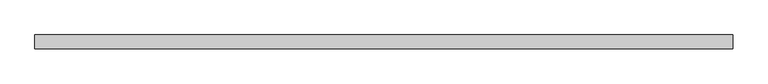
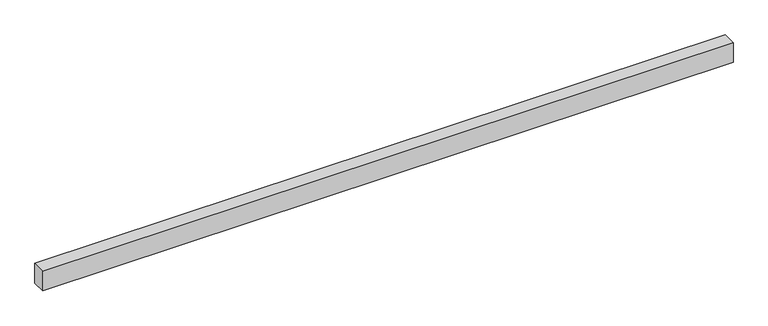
"""IFC4 building model written with IfcOpenShell, lengths in millimetres: proxy geometry, Кабель-каналы_магистральные_цвет-белый : Кабель-канал магистральный 60х40 белый."""

from ifc_helpers import new_model, si_unit, origin, origin_with_axes, place, context, project, spatial, polyline, outline, extrude, source, transform, mapped, element, save


def generic_models_2455add4(model_context):
    return source(origin(), model_context, "Body", "SweptSolid", [
        extrude(outline(polyline([(2000.0, -40.0), (0.0, -40.0), (0.0, 0.0), (2000.0, 0.0), (2000.0, -40.0)])), origin_with_axes(), (0.0, 0.0, 1.0), 60.0),
    ])


if __name__ == "__main__":
    model = new_model("IFC4")
    model_context = context("Model", 3, world=origin())
    ifc_project = project(units=[si_unit("LENGTHUNIT", "METRE", prefix="MILLI")], contexts=[model_context])
    site = spatial("IfcSite", under=ifc_project)
    building = spatial("IfcBuilding", under=site)
    placement = place(None, origin())
    generic_models_shape = generic_models_2455add4(model_context)
    element("IfcBuildingElementProxy", 1, Name="Кабель-каналы_магистральные_цвет-белый : Кабель-канал магистральный 60х40 белый", ObjectType="Кабель-каналы_магистральные_цвет-белый : Кабель-канал магистральный 60х40 белый", at=placement, inside=building, context=model_context, shape_type="MappedRepresentation", body=[
        mapped(generic_models_shape, transform((0.0, 0.0, 0.0), x_axis=(1.0, 0.0, 0.0), y_axis=(0.0, 1.0, 0.0), z_axis=(0.0, 0.0, 1.0))),
    ])
    save(model, "model.ifc")
